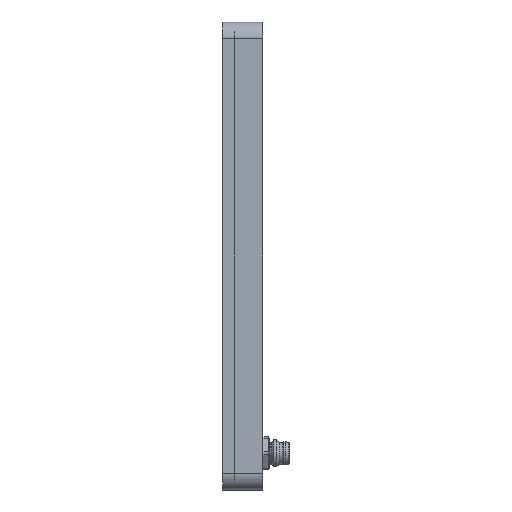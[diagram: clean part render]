
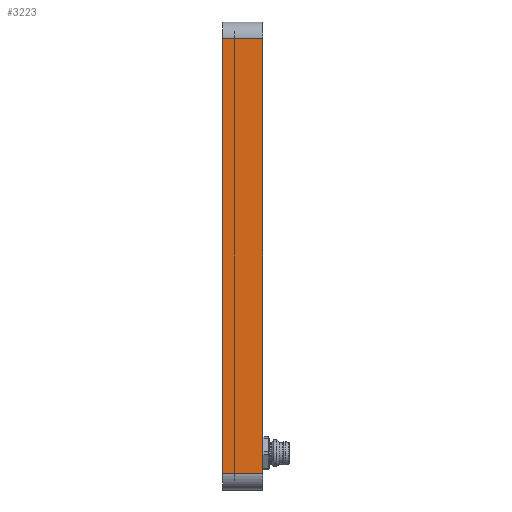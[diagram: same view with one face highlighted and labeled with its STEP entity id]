
A CAD part, left-side view. The second image highlights one B-rep face of the part: STEP entity #3223.
In plain terms, the highlighted planar face has unit normal (-1, 0, 0).
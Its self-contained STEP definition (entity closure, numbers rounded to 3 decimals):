
#68 = CARTESIAN_POINT ( 'NONE',  ( -201.419, -22.591, -15. ) ) ;
#115 = VECTOR ( 'NONE', #2073, 1000. ) ;
#228 = ORIENTED_EDGE ( 'NONE', *, *, #3360, .F. ) ;
#462 = CARTESIAN_POINT ( 'NONE',  ( -201.419, -22.591, 120. ) ) ;
#602 = LINE ( 'NONE', #2806, #3783 ) ;
#712 = DIRECTION ( 'NONE',  ( 1., 0., 0. ) ) ;
#933 = VERTEX_POINT ( 'NONE', #68 ) ;
#945 = VERTEX_POINT ( 'NONE', #1698 ) ;
#1244 = ORIENTED_EDGE ( 'NONE', *, *, #3169, .T. ) ;
#1259 = VECTOR ( 'NONE', #3949, 1000. ) ;
#1316 = DIRECTION ( 'NONE',  ( 0., 0., -1. ) ) ;
#1318 = VECTOR ( 'NONE', #4003, 1000. ) ;
#1376 = LINE ( 'NONE', #2326, #1259 ) ;
#1513 = ORIENTED_EDGE ( 'NONE', *, *, #2366, .T. ) ;
#1698 = CARTESIAN_POINT ( 'NONE',  ( -201.419, -22.591, 115. ) ) ;
#1735 = FACE_OUTER_BOUND ( 'NONE', #2209, .T. ) ;
#1870 = VERTEX_POINT ( 'NONE', #4012 ) ;
#2073 = DIRECTION ( 'NONE',  ( 0., -1., 0. ) ) ;
#2209 = EDGE_LOOP ( 'NONE', ( #228, #1513, #1244, #2868 ) ) ;
#2326 = CARTESIAN_POINT ( 'NONE',  ( -201.419, -10.591, 120. ) ) ;
#2366 = EDGE_CURVE ( 'NONE', #1870, #933, #3213, .T. ) ;
#2615 = AXIS2_PLACEMENT_3D ( 'NONE', #2932, #712, #1316 ) ;
#2806 = CARTESIAN_POINT ( 'NONE',  ( -201.419, -10.591, 115. ) ) ;
#2868 = ORIENTED_EDGE ( 'NONE', *, *, #3490, .T. ) ;
#2906 = CARTESIAN_POINT ( 'NONE',  ( -201.419, -10.591, 115. ) ) ;
#2932 = CARTESIAN_POINT ( 'NONE',  ( -201.419, -10.591, 120. ) ) ;
#3169 = EDGE_CURVE ( 'NONE', #933, #945, #3788, .T. ) ;
#3213 = LINE ( 'NONE', #3383, #115 ) ;
#3223 = ADVANCED_FACE ( 'NONE', ( #1735 ), #3932, .F. ) ;
#3360 = EDGE_CURVE ( 'NONE', #1870, #3950, #1376, .T. ) ;
#3383 = CARTESIAN_POINT ( 'NONE',  ( -201.419, -10.591, -15. ) ) ;
#3490 = EDGE_CURVE ( 'NONE', #945, #3950, #602, .T. ) ;
#3707 = DIRECTION ( 'NONE',  ( 0., 1., 0. ) ) ;
#3783 = VECTOR ( 'NONE', #3707, 1000. ) ;
#3788 = LINE ( 'NONE', #462, #1318 ) ;
#3932 = PLANE ( 'NONE',  #2615 ) ;
#3949 = DIRECTION ( 'NONE',  ( 0., 0., 1. ) ) ;
#3950 = VERTEX_POINT ( 'NONE', #2906 ) ;
#4003 = DIRECTION ( 'NONE',  ( 0., 0., 1. ) ) ;
#4012 = CARTESIAN_POINT ( 'NONE',  ( -201.419, -10.591, -15. ) ) ;
